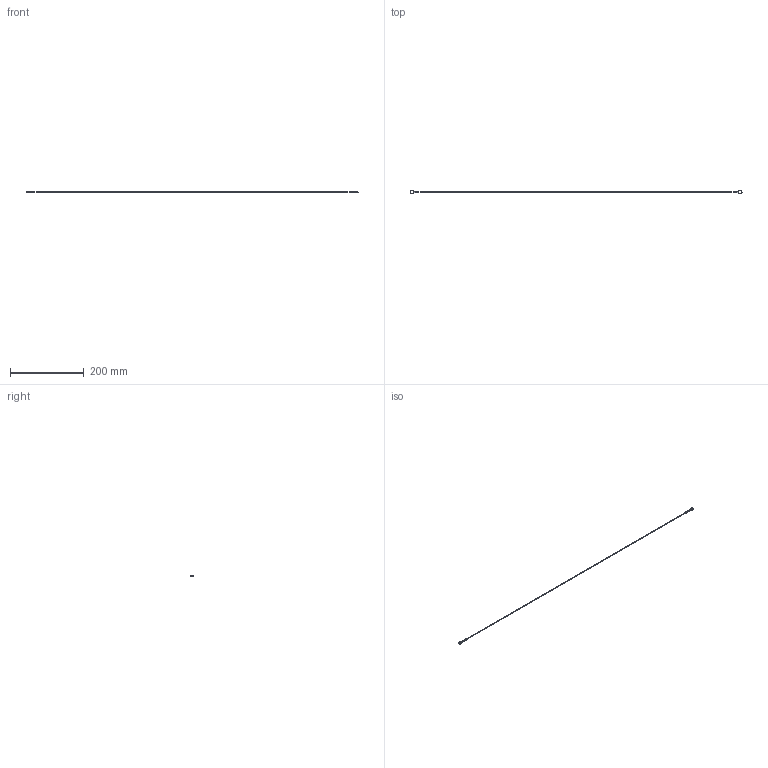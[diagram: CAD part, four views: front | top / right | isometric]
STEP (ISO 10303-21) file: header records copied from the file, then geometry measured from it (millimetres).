
FILE_DESCRIPTION (( 'STEP AP203' ), '1' );
FILE_NAME ('EB-935-10.STEP', '2013-08-12T06:34:09', ( 'SDS' ), ( 'SDS' ), 'SwSTEP 2.0', 'SolidWorks 2002296', '' );
FILE_SCHEMA (( 'CONFIG_CONTROL_DESIGN' ));
Length unit declared in the file: millimetre
Products named in the file (1): EB-935-10
Bounding box: 900 x 10.12 x 2.5 mm (x, y, z)
Surface area: 2559.2 mm2 (no closed solid volume)
Topology: 0 solids, 25 shells, 30 faces, 123 edges, 117 vertices
Faces by surface type: bspline 16, plane 11, cylinder 3
Entity records: 1990 total; most frequent: CARTESIAN_POINT 959, DIRECTION 203, ORIENTED_EDGE 128, EDGE_CURVE 123, VERTEX_POINT 117, AXIS2_PLACEMENT_3D 77, CIRCLE 62, LINE 49
